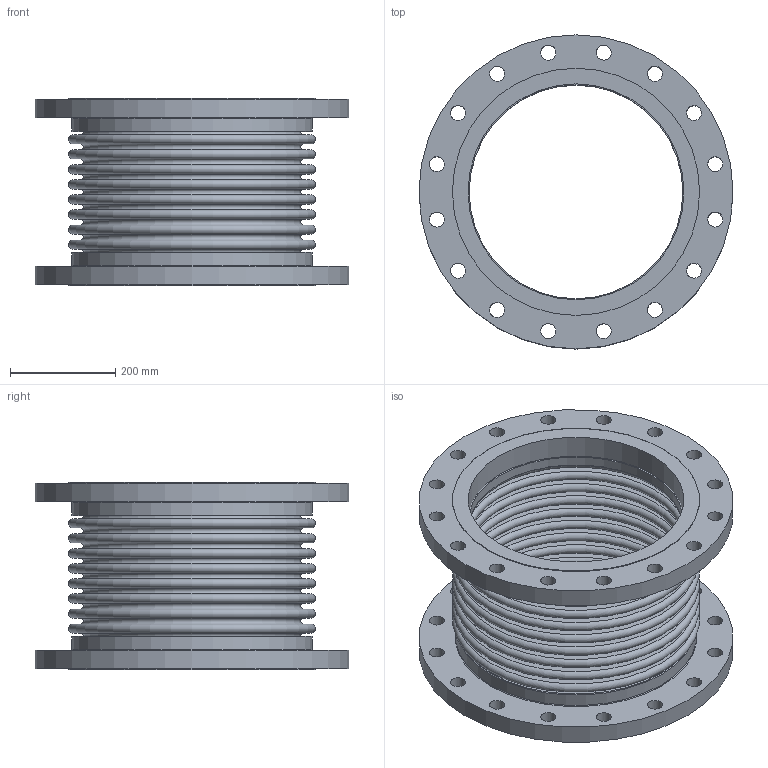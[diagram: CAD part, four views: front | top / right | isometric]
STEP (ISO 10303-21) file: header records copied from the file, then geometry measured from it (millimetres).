
FILE_DESCRIPTION(/* description */ ('EXPANSION JOINT,SINGLE, FLANGED ENDS,16 INCH','CAx-IF Rec.Pracs.---Representation and Presentation of Product Manufacturing Information (PMI)---4.0---2014-10-13'),/* implementation_level */ '2;1');
FILE_NAME(/* name */ 'US-16-8-300S-FLANGED ENDS.stp',/* time_stamp */ '2026-07-31T17:32:53-05:00',/* author */ ('Guadalupe'),/* organization */ (''),/* preprocessor_version */ 'ST-DEVELOPER v20.1',/* originating_system */ 'Autodesk Inventor 2026',/* authorisation */ '');
FILE_SCHEMA (('AP242_MANAGED_MODEL_BASED_3D_ENGINEERING_MIM_LF { 1 0 10303 442 2 1 4 }'));
Length unit declared in the file: inch
Products named in the file (3): 16-300S; 16-300S-02; 16-300S-01
Assembly tree (3 placements, depth 2):
  16-300S
    16-300S-02  x2
    16-300S-01
Bounding box: 596.9 x 596.9 x 355.6 mm (x, y, z)
Volume: 14085164 mm3; surface area: 2767998.8 mm2
Topology: 5 solids, 5 shells, 128 faces, 246 edges, 164 vertices
Faces by surface type: plane 46, cylinder 44, torus 38
Full cylindrical faces by diameter (mm): 28.575 x32, 406.4 x2, 410.464 x2, 412.496 x2, 457.2 x2, 469.9 x2, 596.9 x2
Entity records: 2870 total; most frequent: DIRECTION 578, CARTESIAN_POINT 425, ORIENTED_EDGE 360, AXIS2_PLACEMENT_3D 277, EDGE_CURVE 180, EDGE_LOOP 176, CIRCLE 156, VERTEX_POINT 120
